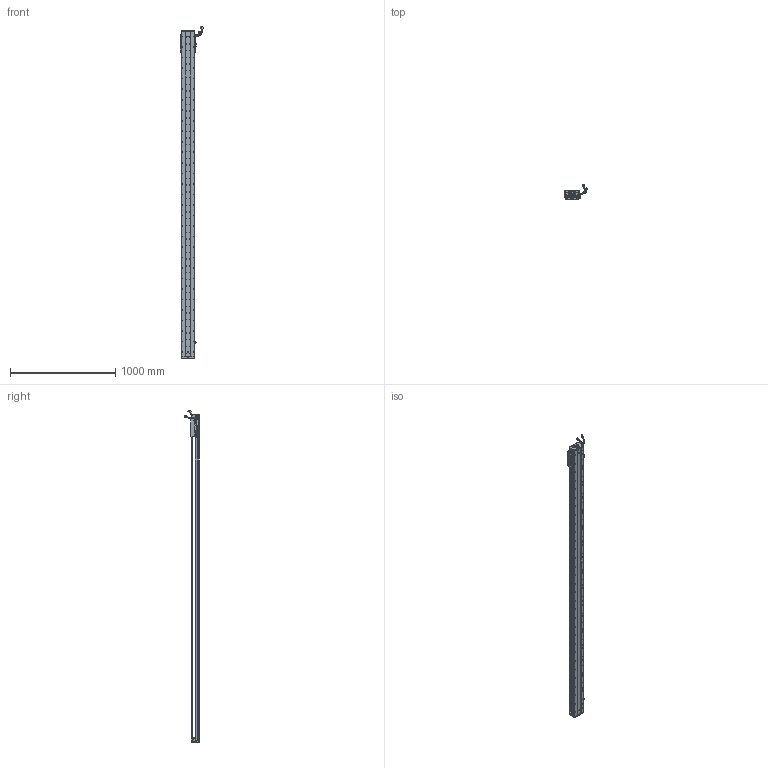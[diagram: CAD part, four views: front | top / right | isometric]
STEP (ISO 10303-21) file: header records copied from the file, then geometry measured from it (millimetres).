
FILE_DESCRIPTION (( 'STEP AP203' ), '1' );
FILE_NAME ('Z2-RY120D-1-L500-B-K.SLDASM_2850.step', '2021-05-17T05:40:31', ( '盈信电脑' ), ( '东莞市道滘镇水果街19号' ), 'SwSTEP 2.0', 'SolidWorks 2016', '' );
FILE_SCHEMA (( 'CONFIG_CONTROL_DESIGN' ));
Length unit declared in the file: millimetre
Products named in the file (37): Z2-RY120-500-倰第菁釱_2850; PSLH080_PSLF2; 榋妏寠巭燃_暯_M2_2; SCREW-M1.6-3; SHIELDPLATE; COVER-Part-1; SCREW-M1.7; HARNESS-Part-1; SCREW-M1.6-2; Z2-RY120-L500詩湍100mm遵_2850; SEAL-Part-1; COVER; PBU_SHEET; SCALE; RY100FB-遵嫖萇覜茼え; Z2-RY120D-1-L500-B-K.SLDASM_2850; 覜茼ん672; SCREW-M1.7-1; LABEL; HOLDER0; HARNESS; Z2-RY120铝滑块（21款）; Z-RY120D詩湍狟揤裔; 672嫖萇羲壽假蚾釱; 140雄赽晤鎢ん堤盄; Z-RY120D詩湍奻揤裔; SCALE-Part-2; SCALE-Part-1; HARNESS-Part-2; LABEL-Part-1; SCREW-M1.6-1; Z-120詩湍傷裔啣; SEAL; SCREW-M1.6; 120-Z-臏賑輸盄裔(21遴); 080黍杅芛假蚾釱21遴; 140蚥薯蝶輸
Assembly tree (43 placements, depth 4):
  Z2-RY120D-1-L500-B-K.SLDASM_2850
    Z2-RY120-500-倰第菁釱_2850
    覜茼ん672  x3
    672嫖萇羲壽假蚾釱  x2
    Z2-RY120铝滑块（21款）
    PSLH080_PSLF2
      SCALE
        SCALE-Part-1
        SCALE-Part-2
      HARNESS
        HARNESS-Part-1
        HARNESS-Part-2
      LABEL
        LABEL-Part-1
      COVER
        COVER-Part-1
      SEAL
        SEAL-Part-1
      榋妏寠巭燃_暯_M2_2
      SHIELDPLATE
      SCREW-M1.7
      SCREW-M1.7-1
      PBU_SHEET
      SCREW-M1.6
      SCREW-M1.6-1
      SCREW-M1.6-2
      SCREW-M1.6-3
      HOLDER0
    080黍杅芛假蚾釱21遴
    120-Z-臏賑輸盄裔(21遴)
    140雄赽晤鎢ん堤盄
    140蚥薯蝶輸  x2
    RY100FB-遵嫖萇覜茼え
    Z-120詩湍傷裔啣  x2
    Z-RY120D詩湍奻揤裔  x2
    Z-RY120D詩湍狟揤裔  x2
    Z2-RY120-L500詩湍100mm遵_2850
Bounding box: 222.83 x 140.94 x 3158.99 mm (x, y, z)
Volume: 7094437.1 mm3; surface area: 2524166.3 mm2
Topology: 38 solids, 38 shells, 3945 faces, 11368 edges, 7174 vertices
Faces by surface type: cylinder 2126, plane 1287, cone 410, torus 69, bspline 53
Entity records: 135571 total; most frequent: CARTESIAN_POINT 42616, ORIENTED_EDGE 19440, DIRECTION 17548, EDGE_CURVE 9720, AXIS2_PLACEMENT_3D 6500, VERTEX_POINT 6294, LINE 4548, VECTOR 4548
